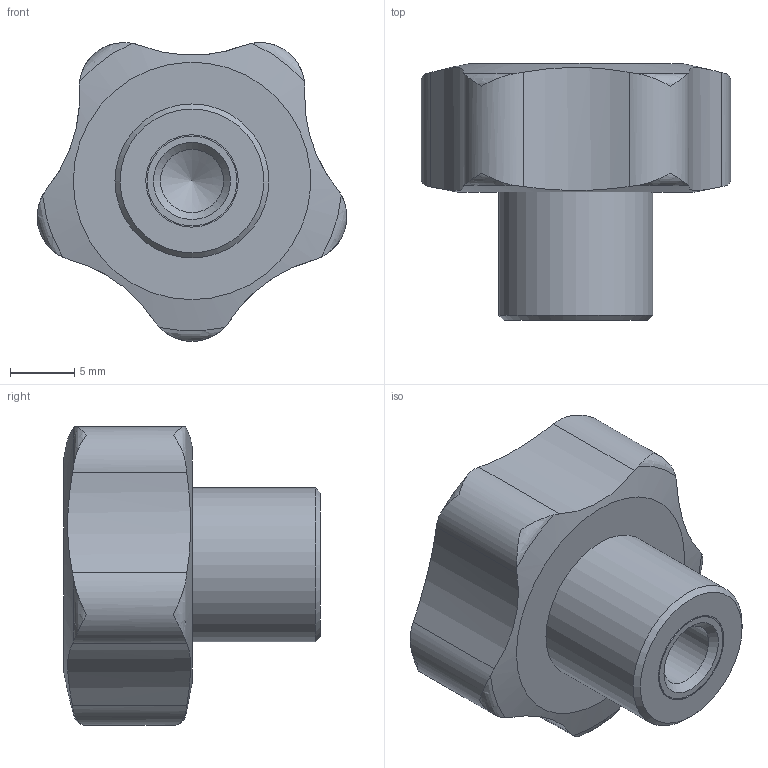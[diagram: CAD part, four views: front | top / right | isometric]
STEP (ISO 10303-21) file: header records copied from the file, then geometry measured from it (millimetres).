
FILE_DESCRIPTION( ( 'STEP AP203' ), '1' );
FILE_NAME( 'C:/Temp/Ganter_Step_05_03_2020/data/2_2/gn_5337_4/gn_5337_4_b/Star knob GN 5337.4-25-M6.stp', '2020-03-05T12:09:32', ( 'License CC BY-ND 4.0' ), ( 'CADENAS' ), ' ', 'PARTsolutions', ' ' );
FILE_SCHEMA( ( 'CONFIG_CONTROL_DESIGN' ) );
Length unit declared in the file: millimetre
Products named in the file (1): _Star knob GN 5337.4-25-M6
Bounding box: 24.11 x 20 x 23.28 mm (x, y, z)
Volume: 4584.9 mm3; surface area: 2005.8 mm2
Topology: 1 solids, 1 shells, 34 faces, 97 edges, 67 vertices
Faces by surface type: cylinder 14, torus 10, cone 4, plane 4, bspline 1, sphere 1
Full cylindrical faces by diameter (mm): 4.917 x1, 7 x1, 7.2 x1, 12 x1
Entity records: 1421 total; most frequent: CARTESIAN_POINT 630, ORIENTED_EDGE 164, DIRECTION 122, EDGE_CURVE 82, VERTEX_POINT 64, AXIS2_PLACEMENT_3D 56, B_SPLINE_CURVE_WITH_KNOTS 50, EDGE_LOOP 46
